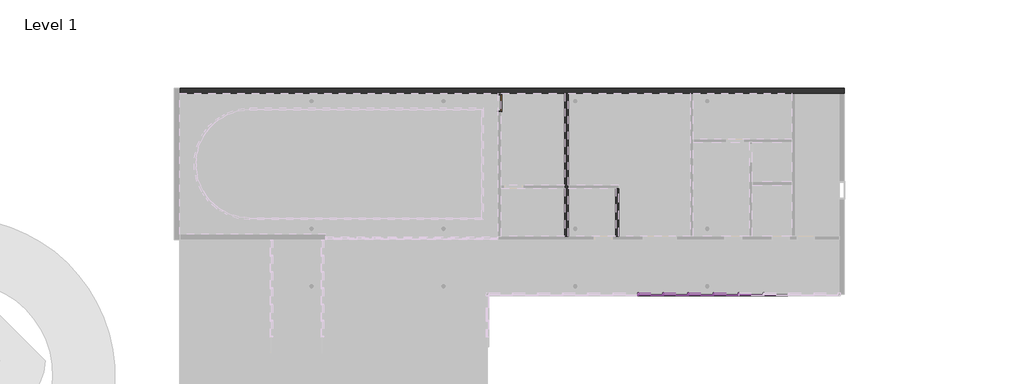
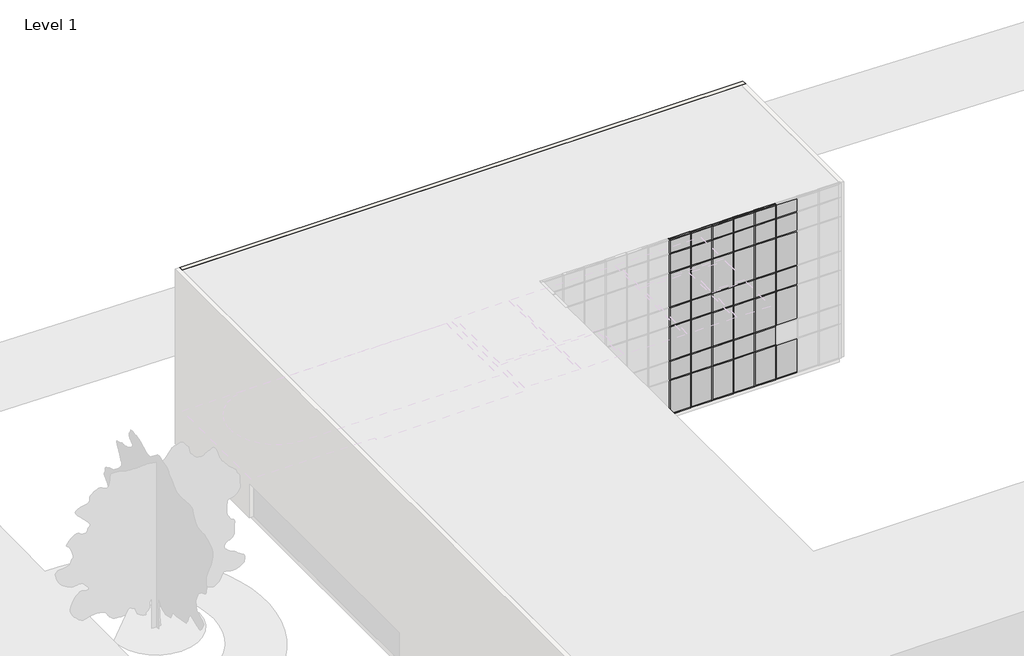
# One storey, part 16 of 18: 81 members, 41 plates, 3 walls, 1 door.
"""IFC4 building model written with IfcOpenShell, lengths in millimetres."""

from ifc_helpers import new_model, si_unit, origin, origin_with_axes, place, context, project, spatial, polyline, outline, extrude, faceted_brep, transform, mapped, element, save
from components import door_0915mm_x_2134mm_2aa27b83, rectangular_mullion_50mm_x_150mm_5a36e067, rectangular_mullion_50mm_x_150mm_73e7bd4c, rectangular_mullion_50mm_x_150mm_bbc1c4ea, rectangular_mullion_50mm_x_150mm_36202a7c, rectangular_mullion_50mm_x_150mm_84717ec5, system_panel_glazed_6032f2be, system_panel_glazed_cd6fe77c, system_panel_solid_87c6c2f1, system_panel_solid_e0f9033a

model = new_model("IFC4")

# Units and contexts
model_context = context("Model", 3, world=origin())
ifc_project = project(units=[si_unit("LENGTHUNIT", "METRE", prefix="MILLI")], contexts=[model_context])

# Site, building, storey
site = spatial("IfcSite", under=ifc_project)
building = spatial("IfcBuilding", under=site)
storey = spatial("IfcBuildingStorey", under=building, Name="Level 1", Elevation=0.0)

# Door
placement = place(None, origin())
door_0915mm_x_2134mm_shape = door_0915mm_x_2134mm_2aa27b83(model_context)
element("IfcDoor", 1, ObjectType="m-doors-hm-f1-a : 0915mm x 2134mm", at=placement, inside=storey, context=model_context, shape_type="MappedRepresentation", body=[
    mapped(door_0915mm_x_2134mm_shape, transform((8314.5010724, 30269.5799804, 0.0), x_axis=(0.0, -1.0, 0.0), y_axis=(1.0, 0.0, 0.0), z_axis=(0.0, 0.0, 1.0))),
])

# Members
rectangular_mullion_50mm_x_150mm_shape = rectangular_mullion_50mm_x_150mm_5a36e067(model_context)
element("IfcMember", 2, ObjectType="Rectangular Mullion : 50mm x 150mm", at=placement, inside=storey, context=model_context, shape_type="MappedRepresentation", body=[
    mapped(rectangular_mullion_50mm_x_150mm_shape, transform((17404.700491, 19414.8392059, 12400.0), x_axis=(0.0, 0.0, 1.0), y_axis=(0.0, -1.0, 0.0), z_axis=(1.0, 0.0, 0.0))),
])
element("IfcMember", 3, ObjectType="Rectangular Mullion : 50mm x 150mm", at=placement, inside=storey, context=model_context, shape_type="MappedRepresentation", body=[
    mapped(rectangular_mullion_50mm_x_150mm_shape, transform((18830.7289793, 19414.8392059, 12400.0), x_axis=(0.0, 0.0, 1.0), y_axis=(0.0, -1.0, 0.0), z_axis=(1.0, 0.0, 0.0))),
])
element("IfcMember", 4, ObjectType="Rectangular Mullion : 50mm x 150mm", at=placement, inside=storey, context=model_context, shape_type="MappedRepresentation", body=[
    mapped(rectangular_mullion_50mm_x_150mm_shape, transform((20256.7574677, 19414.8392059, 12400.0), x_axis=(0.0, 0.0, 1.0), y_axis=(0.0, -1.0, 0.0), z_axis=(1.0, 0.0, 0.0))),
])
element("IfcMember", 5, ObjectType="Rectangular Mullion : 50mm x 150mm", at=placement, inside=storey, context=model_context, shape_type="MappedRepresentation", body=[
    mapped(rectangular_mullion_50mm_x_150mm_shape, transform((21682.785956, 19414.8392059, 12400.0), x_axis=(0.0, 0.0, 1.0), y_axis=(0.0, -1.0, 0.0), z_axis=(1.0, 0.0, 0.0))),
])
element("IfcMember", 6, ObjectType="Rectangular Mullion : 50mm x 150mm", at=placement, inside=storey, context=model_context, shape_type="MappedRepresentation", body=[
    mapped(rectangular_mullion_50mm_x_150mm_shape, transform((23108.8144443, 19414.8392059, 12400.0), x_axis=(0.0, 0.0, 1.0), y_axis=(0.0, -1.0, 0.0), z_axis=(1.0, 0.0, 0.0))),
])
element("IfcMember", 7, ObjectType="Rectangular Mullion : 50mm x 150mm", at=placement, inside=storey, context=model_context, shape_type="MappedRepresentation", body=[
    mapped(rectangular_mullion_50mm_x_150mm_shape, transform((16028.6720027, 19414.8392059, 0.0), x_axis=(0.0, 0.0, -1.0), y_axis=(0.0, -1.0, 0.0), z_axis=(-1.0, 0.0, 0.0))),
])
element("IfcMember", 8, ObjectType="Rectangular Mullion : 50mm x 150mm", at=placement, inside=storey, context=model_context, shape_type="MappedRepresentation", body=[
    mapped(rectangular_mullion_50mm_x_150mm_shape, transform((17454.700491, 19414.8392059, 0.0), x_axis=(0.0, 0.0, -1.0), y_axis=(0.0, -1.0, 0.0), z_axis=(-1.0, 0.0, 0.0))),
])
element("IfcMember", 9, ObjectType="Rectangular Mullion : 50mm x 150mm", at=placement, inside=storey, context=model_context, shape_type="MappedRepresentation", body=[
    mapped(rectangular_mullion_50mm_x_150mm_shape, transform((18880.7289793, 19414.8392059, 0.0), x_axis=(0.0, 0.0, -1.0), y_axis=(0.0, -1.0, 0.0), z_axis=(-1.0, 0.0, 0.0))),
])
element("IfcMember", 10, ObjectType="Rectangular Mullion : 50mm x 150mm", at=placement, inside=storey, context=model_context, shape_type="MappedRepresentation", body=[
    mapped(rectangular_mullion_50mm_x_150mm_shape, transform((20306.7574677, 19414.8392059, 0.0), x_axis=(0.0, 0.0, -1.0), y_axis=(0.0, -1.0, 0.0), z_axis=(-1.0, 0.0, 0.0))),
])
element("IfcMember", 11, ObjectType="Rectangular Mullion : 50mm x 150mm", at=placement, inside=storey, context=model_context, shape_type="MappedRepresentation", body=[
    mapped(rectangular_mullion_50mm_x_150mm_shape, transform((21732.785956, 19414.8392059, 0.0), x_axis=(0.0, 0.0, -1.0), y_axis=(0.0, -1.0, 0.0), z_axis=(-1.0, 0.0, 0.0))),
])
element("IfcMember", 12, ObjectType="Rectangular Mullion : 50mm x 150mm", at=placement, inside=storey, context=model_context, shape_type="MappedRepresentation", body=[
    mapped(rectangular_mullion_50mm_x_150mm_shape, transform((23158.8144443, 19414.8392059, 0.0), x_axis=(0.0, 0.0, -1.0), y_axis=(0.0, -1.0, 0.0), z_axis=(-1.0, 0.0, 0.0))),
])
rectangular_mullion_50mm_x_150mm_2_shape = rectangular_mullion_50mm_x_150mm_73e7bd4c(model_context)
element("IfcMember", 13, ObjectType="Rectangular Mullion : 50mm x 150mm", at=placement, inside=storey, context=model_context, shape_type="MappedRepresentation", body=[
    mapped(rectangular_mullion_50mm_x_150mm_2_shape, transform((17404.700491, 19414.8392059, 3800.0), x_axis=(0.0, 0.0, 1.0), y_axis=(0.0, -1.0, 0.0), z_axis=(1.0, 0.0, 0.0))),
])
element("IfcMember", 14, ObjectType="Rectangular Mullion : 50mm x 150mm", at=placement, inside=storey, context=model_context, shape_type="MappedRepresentation", body=[
    mapped(rectangular_mullion_50mm_x_150mm_2_shape, transform((18830.7289793, 19414.8392059, 3800.0), x_axis=(0.0, 0.0, 1.0), y_axis=(0.0, -1.0, 0.0), z_axis=(1.0, 0.0, 0.0))),
])
element("IfcMember", 15, ObjectType="Rectangular Mullion : 50mm x 150mm", at=placement, inside=storey, context=model_context, shape_type="MappedRepresentation", body=[
    mapped(rectangular_mullion_50mm_x_150mm_2_shape, transform((20256.7574677, 19414.8392059, 3800.0), x_axis=(0.0, 0.0, 1.0), y_axis=(0.0, -1.0, 0.0), z_axis=(1.0, 0.0, 0.0))),
])
element("IfcMember", 16, ObjectType="Rectangular Mullion : 50mm x 150mm", at=placement, inside=storey, context=model_context, shape_type="MappedRepresentation", body=[
    mapped(rectangular_mullion_50mm_x_150mm_2_shape, transform((21682.785956, 19414.8392059, 3800.0), x_axis=(0.0, 0.0, 1.0), y_axis=(0.0, -1.0, 0.0), z_axis=(1.0, 0.0, 0.0))),
])
element("IfcMember", 17, ObjectType="Rectangular Mullion : 50mm x 150mm", at=placement, inside=storey, context=model_context, shape_type="MappedRepresentation", body=[
    mapped(rectangular_mullion_50mm_x_150mm_2_shape, transform((23108.8144443, 19414.8392059, 3800.0), x_axis=(0.0, 0.0, 1.0), y_axis=(0.0, -1.0, 0.0), z_axis=(1.0, 0.0, 0.0))),
])
element("IfcMember", 18, ObjectType="Rectangular Mullion : 50mm x 150mm", at=placement, inside=storey, context=model_context, shape_type="MappedRepresentation", body=[
    mapped(rectangular_mullion_50mm_x_150mm_2_shape, transform((17404.700491, 19414.8392059, 7600.0), x_axis=(0.0, 0.0, 1.0), y_axis=(0.0, -1.0, 0.0), z_axis=(1.0, 0.0, 0.0))),
])
element("IfcMember", 19, ObjectType="Rectangular Mullion : 50mm x 150mm", at=placement, inside=storey, context=model_context, shape_type="MappedRepresentation", body=[
    mapped(rectangular_mullion_50mm_x_150mm_2_shape, transform((18830.7289793, 19414.8392059, 7600.0), x_axis=(0.0, 0.0, 1.0), y_axis=(0.0, -1.0, 0.0), z_axis=(1.0, 0.0, 0.0))),
])
element("IfcMember", 20, ObjectType="Rectangular Mullion : 50mm x 150mm", at=placement, inside=storey, context=model_context, shape_type="MappedRepresentation", body=[
    mapped(rectangular_mullion_50mm_x_150mm_2_shape, transform((20256.7574677, 19414.8392059, 7600.0), x_axis=(0.0, 0.0, 1.0), y_axis=(0.0, -1.0, 0.0), z_axis=(1.0, 0.0, 0.0))),
])
element("IfcMember", 21, ObjectType="Rectangular Mullion : 50mm x 150mm", at=placement, inside=storey, context=model_context, shape_type="MappedRepresentation", body=[
    mapped(rectangular_mullion_50mm_x_150mm_2_shape, transform((21682.785956, 19414.8392059, 7600.0), x_axis=(0.0, 0.0, 1.0), y_axis=(0.0, -1.0, 0.0), z_axis=(1.0, 0.0, 0.0))),
])
element("IfcMember", 22, ObjectType="Rectangular Mullion : 50mm x 150mm", at=placement, inside=storey, context=model_context, shape_type="MappedRepresentation", body=[
    mapped(rectangular_mullion_50mm_x_150mm_2_shape, transform((23108.8144443, 19414.8392059, 7600.0), x_axis=(0.0, 0.0, 1.0), y_axis=(0.0, -1.0, 0.0), z_axis=(1.0, 0.0, 0.0))),
])
element("IfcMember", 23, ObjectType="Rectangular Mullion : 50mm x 150mm", at=placement, inside=storey, context=model_context, shape_type="MappedRepresentation", body=[
    mapped(rectangular_mullion_50mm_x_150mm_2_shape, transform((17404.700491, 19414.8392059, 11400.0), x_axis=(0.0, 0.0, 1.0), y_axis=(0.0, -1.0, 0.0), z_axis=(1.0, 0.0, 0.0))),
])
element("IfcMember", 24, ObjectType="Rectangular Mullion : 50mm x 150mm", at=placement, inside=storey, context=model_context, shape_type="MappedRepresentation", body=[
    mapped(rectangular_mullion_50mm_x_150mm_2_shape, transform((18830.7289793, 19414.8392059, 11400.0), x_axis=(0.0, 0.0, 1.0), y_axis=(0.0, -1.0, 0.0), z_axis=(1.0, 0.0, 0.0))),
])
element("IfcMember", 25, ObjectType="Rectangular Mullion : 50mm x 150mm", at=placement, inside=storey, context=model_context, shape_type="MappedRepresentation", body=[
    mapped(rectangular_mullion_50mm_x_150mm_2_shape, transform((20256.7574677, 19414.8392059, 11400.0), x_axis=(0.0, 0.0, 1.0), y_axis=(0.0, -1.0, 0.0), z_axis=(1.0, 0.0, 0.0))),
])
element("IfcMember", 26, ObjectType="Rectangular Mullion : 50mm x 150mm", at=placement, inside=storey, context=model_context, shape_type="MappedRepresentation", body=[
    mapped(rectangular_mullion_50mm_x_150mm_2_shape, transform((21682.785956, 19414.8392059, 11400.0), x_axis=(0.0, 0.0, 1.0), y_axis=(0.0, -1.0, 0.0), z_axis=(1.0, 0.0, 0.0))),
])
element("IfcMember", 27, ObjectType="Rectangular Mullion : 50mm x 150mm", at=placement, inside=storey, context=model_context, shape_type="MappedRepresentation", body=[
    mapped(rectangular_mullion_50mm_x_150mm_2_shape, transform((23108.8144443, 19414.8392059, 11400.0), x_axis=(0.0, 0.0, 1.0), y_axis=(0.0, -1.0, 0.0), z_axis=(1.0, 0.0, 0.0))),
])
element("IfcMember", 28, ObjectType="Rectangular Mullion : 50mm x 150mm", at=placement, inside=storey, context=model_context, shape_type="MappedRepresentation", body=[
    mapped(rectangular_mullion_50mm_x_150mm_2_shape, transform((17404.700491, 19414.8392059, 10040.0), x_axis=(0.0, 0.0, 1.0), y_axis=(0.0, -1.0, 0.0), z_axis=(1.0, 0.0, 0.0))),
])
element("IfcMember", 29, ObjectType="Rectangular Mullion : 50mm x 150mm", at=placement, inside=storey, context=model_context, shape_type="MappedRepresentation", body=[
    mapped(rectangular_mullion_50mm_x_150mm_2_shape, transform((18830.7289793, 19414.8392059, 10040.0), x_axis=(0.0, 0.0, 1.0), y_axis=(0.0, -1.0, 0.0), z_axis=(1.0, 0.0, 0.0))),
])
element("IfcMember", 30, ObjectType="Rectangular Mullion : 50mm x 150mm", at=placement, inside=storey, context=model_context, shape_type="MappedRepresentation", body=[
    mapped(rectangular_mullion_50mm_x_150mm_2_shape, transform((20256.7574677, 19414.8392059, 10040.0), x_axis=(0.0, 0.0, 1.0), y_axis=(0.0, -1.0, 0.0), z_axis=(1.0, 0.0, 0.0))),
])
element("IfcMember", 31, ObjectType="Rectangular Mullion : 50mm x 150mm", at=placement, inside=storey, context=model_context, shape_type="MappedRepresentation", body=[
    mapped(rectangular_mullion_50mm_x_150mm_2_shape, transform((21682.785956, 19414.8392059, 10040.0), x_axis=(0.0, 0.0, 1.0), y_axis=(0.0, -1.0, 0.0), z_axis=(1.0, 0.0, 0.0))),
])
element("IfcMember", 32, ObjectType="Rectangular Mullion : 50mm x 150mm", at=placement, inside=storey, context=model_context, shape_type="MappedRepresentation", body=[
    mapped(rectangular_mullion_50mm_x_150mm_2_shape, transform((23108.8144443, 19414.8392059, 10040.0), x_axis=(0.0, 0.0, 1.0), y_axis=(0.0, -1.0, 0.0), z_axis=(1.0, 0.0, 0.0))),
])
element("IfcMember", 33, ObjectType="Rectangular Mullion : 50mm x 150mm", at=placement, inside=storey, context=model_context, shape_type="MappedRepresentation", body=[
    mapped(rectangular_mullion_50mm_x_150mm_2_shape, transform((17404.700491, 19414.8392059, 6240.0), x_axis=(0.0, 0.0, 1.0), y_axis=(0.0, -1.0, 0.0), z_axis=(1.0, 0.0, 0.0))),
])
element("IfcMember", 34, ObjectType="Rectangular Mullion : 50mm x 150mm", at=placement, inside=storey, context=model_context, shape_type="MappedRepresentation", body=[
    mapped(rectangular_mullion_50mm_x_150mm_2_shape, transform((18830.7289793, 19414.8392059, 6240.0), x_axis=(0.0, 0.0, 1.0), y_axis=(0.0, -1.0, 0.0), z_axis=(1.0, 0.0, 0.0))),
])
element("IfcMember", 35, ObjectType="Rectangular Mullion : 50mm x 150mm", at=placement, inside=storey, context=model_context, shape_type="MappedRepresentation", body=[
    mapped(rectangular_mullion_50mm_x_150mm_2_shape, transform((20256.7574677, 19414.8392059, 6240.0), x_axis=(0.0, 0.0, 1.0), y_axis=(0.0, -1.0, 0.0), z_axis=(1.0, 0.0, 0.0))),
])
element("IfcMember", 36, ObjectType="Rectangular Mullion : 50mm x 150mm", at=placement, inside=storey, context=model_context, shape_type="MappedRepresentation", body=[
    mapped(rectangular_mullion_50mm_x_150mm_2_shape, transform((21682.785956, 19414.8392059, 6240.0), x_axis=(0.0, 0.0, 1.0), y_axis=(0.0, -1.0, 0.0), z_axis=(1.0, 0.0, 0.0))),
])
element("IfcMember", 37, ObjectType="Rectangular Mullion : 50mm x 150mm", at=placement, inside=storey, context=model_context, shape_type="MappedRepresentation", body=[
    mapped(rectangular_mullion_50mm_x_150mm_2_shape, transform((23108.8144443, 19414.8392059, 6240.0), x_axis=(0.0, 0.0, 1.0), y_axis=(0.0, -1.0, 0.0), z_axis=(1.0, 0.0, 0.0))),
])
element("IfcMember", 38, ObjectType="Rectangular Mullion : 50mm x 150mm", at=placement, inside=storey, context=model_context, shape_type="MappedRepresentation", body=[
    mapped(rectangular_mullion_50mm_x_150mm_2_shape, transform((17404.700491, 19414.8392059, 2440.0), x_axis=(0.0, 0.0, 1.0), y_axis=(0.0, -1.0, 0.0), z_axis=(1.0, 0.0, 0.0))),
])
element("IfcMember", 39, ObjectType="Rectangular Mullion : 50mm x 150mm", at=placement, inside=storey, context=model_context, shape_type="MappedRepresentation", body=[
    mapped(rectangular_mullion_50mm_x_150mm_2_shape, transform((18830.7289793, 19414.8392059, 2440.0), x_axis=(0.0, 0.0, 1.0), y_axis=(0.0, -1.0, 0.0), z_axis=(1.0, 0.0, 0.0))),
])
element("IfcMember", 40, ObjectType="Rectangular Mullion : 50mm x 150mm", at=placement, inside=storey, context=model_context, shape_type="MappedRepresentation", body=[
    mapped(rectangular_mullion_50mm_x_150mm_2_shape, transform((20256.7574677, 19414.8392059, 2440.0), x_axis=(0.0, 0.0, 1.0), y_axis=(0.0, -1.0, 0.0), z_axis=(1.0, 0.0, 0.0))),
])
element("IfcMember", 41, ObjectType="Rectangular Mullion : 50mm x 150mm", at=placement, inside=storey, context=model_context, shape_type="MappedRepresentation", body=[
    mapped(rectangular_mullion_50mm_x_150mm_2_shape, transform((21682.785956, 19414.8392059, 2440.0), x_axis=(0.0, 0.0, 1.0), y_axis=(0.0, -1.0, 0.0), z_axis=(1.0, 0.0, 0.0))),
])
rectangular_mullion_50mm_x_150mm_3_shape = rectangular_mullion_50mm_x_150mm_bbc1c4ea(model_context)
element("IfcMember", 42, ObjectType="Rectangular Mullion : 50mm x 150mm", at=placement, inside=storey, context=model_context, shape_type="MappedRepresentation", body=[
    mapped(rectangular_mullion_50mm_x_150mm_3_shape, transform((16003.6720027, 19414.8392059, 11400.0), x_axis=(1.0, 0.0, 0.0), y_axis=(0.0, -1.0, 0.0), z_axis=(0.0, 0.0, -1.0))),
])
element("IfcMember", 43, ObjectType="Rectangular Mullion : 50mm x 150mm", at=placement, inside=storey, context=model_context, shape_type="MappedRepresentation", body=[
    mapped(rectangular_mullion_50mm_x_150mm_3_shape, transform((17429.700491, 19414.8392059, 11400.0), x_axis=(1.0, 0.0, 0.0), y_axis=(0.0, -1.0, 0.0), z_axis=(0.0, 0.0, -1.0))),
])
element("IfcMember", 44, ObjectType="Rectangular Mullion : 50mm x 150mm", at=placement, inside=storey, context=model_context, shape_type="MappedRepresentation", body=[
    mapped(rectangular_mullion_50mm_x_150mm_3_shape, transform((18855.7289793, 19414.8392059, 11400.0), x_axis=(1.0, 0.0, 0.0), y_axis=(0.0, -1.0, 0.0), z_axis=(0.0, 0.0, -1.0))),
])
element("IfcMember", 45, ObjectType="Rectangular Mullion : 50mm x 150mm", at=placement, inside=storey, context=model_context, shape_type="MappedRepresentation", body=[
    mapped(rectangular_mullion_50mm_x_150mm_3_shape, transform((20281.7574677, 19414.8392059, 11400.0), x_axis=(1.0, 0.0, 0.0), y_axis=(0.0, -1.0, 0.0), z_axis=(0.0, 0.0, -1.0))),
])
element("IfcMember", 46, ObjectType="Rectangular Mullion : 50mm x 150mm", at=placement, inside=storey, context=model_context, shape_type="MappedRepresentation", body=[
    mapped(rectangular_mullion_50mm_x_150mm_3_shape, transform((21707.785956, 19414.8392059, 11400.0), x_axis=(1.0, 0.0, 0.0), y_axis=(0.0, -1.0, 0.0), z_axis=(0.0, 0.0, -1.0))),
])
element("IfcMember", 47, ObjectType="Rectangular Mullion : 50mm x 150mm", at=placement, inside=storey, context=model_context, shape_type="MappedRepresentation", body=[
    mapped(rectangular_mullion_50mm_x_150mm_3_shape, transform((23133.8144443, 19414.8392059, 11400.0), x_axis=(1.0, 0.0, 0.0), y_axis=(0.0, -1.0, 0.0), z_axis=(0.0, 0.0, -1.0))),
])
rectangular_mullion_50mm_x_150mm_4_shape = rectangular_mullion_50mm_x_150mm_36202a7c(model_context)
element("IfcMember", 48, ObjectType="Rectangular Mullion : 50mm x 150mm", at=placement, inside=storey, context=model_context, shape_type="MappedRepresentation", body=[
    mapped(rectangular_mullion_50mm_x_150mm_4_shape, transform((16003.6720027, 19414.8392059, 0.0), x_axis=(1.0, 0.0, 0.0), y_axis=(0.0, -1.0, 0.0), z_axis=(0.0, 0.0, -1.0))),
])
element("IfcMember", 49, ObjectType="Rectangular Mullion : 50mm x 150mm", at=placement, inside=storey, context=model_context, shape_type="MappedRepresentation", body=[
    mapped(rectangular_mullion_50mm_x_150mm_4_shape, transform((17429.700491, 19414.8392059, 0.0), x_axis=(1.0, 0.0, 0.0), y_axis=(0.0, -1.0, 0.0), z_axis=(0.0, 0.0, -1.0))),
])
element("IfcMember", 50, ObjectType="Rectangular Mullion : 50mm x 150mm", at=placement, inside=storey, context=model_context, shape_type="MappedRepresentation", body=[
    mapped(rectangular_mullion_50mm_x_150mm_4_shape, transform((18855.7289793, 19414.8392059, 0.0), x_axis=(1.0, 0.0, 0.0), y_axis=(0.0, -1.0, 0.0), z_axis=(0.0, 0.0, -1.0))),
])
element("IfcMember", 51, ObjectType="Rectangular Mullion : 50mm x 150mm", at=placement, inside=storey, context=model_context, shape_type="MappedRepresentation", body=[
    mapped(rectangular_mullion_50mm_x_150mm_4_shape, transform((20281.7574677, 19414.8392059, 0.0), x_axis=(1.0, 0.0, 0.0), y_axis=(0.0, -1.0, 0.0), z_axis=(0.0, 0.0, -1.0))),
])
element("IfcMember", 52, ObjectType="Rectangular Mullion : 50mm x 150mm", at=placement, inside=storey, context=model_context, shape_type="MappedRepresentation", body=[
    mapped(rectangular_mullion_50mm_x_150mm_4_shape, transform((21707.785956, 19414.8392059, 0.0), x_axis=(1.0, 0.0, 0.0), y_axis=(0.0, -1.0, 0.0), z_axis=(0.0, 0.0, -1.0))),
])
element("IfcMember", 53, ObjectType="Rectangular Mullion : 50mm x 150mm", at=placement, inside=storey, context=model_context, shape_type="MappedRepresentation", body=[
    mapped(rectangular_mullion_50mm_x_150mm_4_shape, transform((23133.8144443, 19414.8392059, 0.0), x_axis=(1.0, 0.0, 0.0), y_axis=(0.0, -1.0, 0.0), z_axis=(0.0, 0.0, -1.0))),
])
rectangular_mullion_50mm_x_150mm_5_shape = rectangular_mullion_50mm_x_150mm_84717ec5(model_context)
element("IfcMember", 54, ObjectType="Rectangular Mullion : 50mm x 150mm", at=placement, inside=storey, context=model_context, shape_type="MappedRepresentation", body=[
    mapped(rectangular_mullion_50mm_x_150mm_5_shape, transform((16003.6720027, 19414.8392059, 10040.0), x_axis=(1.0, 0.0, 0.0), y_axis=(0.0, -1.0, 0.0), z_axis=(0.0, 0.0, -1.0))),
])
element("IfcMember", 55, ObjectType="Rectangular Mullion : 50mm x 150mm", at=placement, inside=storey, context=model_context, shape_type="MappedRepresentation", body=[
    mapped(rectangular_mullion_50mm_x_150mm_5_shape, transform((17429.700491, 19414.8392059, 10040.0), x_axis=(1.0, 0.0, 0.0), y_axis=(0.0, -1.0, 0.0), z_axis=(0.0, 0.0, -1.0))),
])
element("IfcMember", 56, ObjectType="Rectangular Mullion : 50mm x 150mm", at=placement, inside=storey, context=model_context, shape_type="MappedRepresentation", body=[
    mapped(rectangular_mullion_50mm_x_150mm_5_shape, transform((18855.7289793, 19414.8392059, 10040.0), x_axis=(1.0, 0.0, 0.0), y_axis=(0.0, -1.0, 0.0), z_axis=(0.0, 0.0, -1.0))),
])
element("IfcMember", 57, ObjectType="Rectangular Mullion : 50mm x 150mm", at=placement, inside=storey, context=model_context, shape_type="MappedRepresentation", body=[
    mapped(rectangular_mullion_50mm_x_150mm_5_shape, transform((20281.7574677, 19414.8392059, 10040.0), x_axis=(1.0, 0.0, 0.0), y_axis=(0.0, -1.0, 0.0), z_axis=(0.0, 0.0, -1.0))),
])
element("IfcMember", 58, ObjectType="Rectangular Mullion : 50mm x 150mm", at=placement, inside=storey, context=model_context, shape_type="MappedRepresentation", body=[
    mapped(rectangular_mullion_50mm_x_150mm_5_shape, transform((21707.785956, 19414.8392059, 10040.0), x_axis=(1.0, 0.0, 0.0), y_axis=(0.0, -1.0, 0.0), z_axis=(0.0, 0.0, -1.0))),
])
element("IfcMember", 59, ObjectType="Rectangular Mullion : 50mm x 150mm", at=placement, inside=storey, context=model_context, shape_type="MappedRepresentation", body=[
    mapped(rectangular_mullion_50mm_x_150mm_5_shape, transform((23133.8144443, 19414.8392059, 10040.0), x_axis=(1.0, 0.0, 0.0), y_axis=(0.0, -1.0, 0.0), z_axis=(0.0, 0.0, -1.0))),
])
element("IfcMember", 60, ObjectType="Rectangular Mullion : 50mm x 150mm", at=placement, inside=storey, context=model_context, shape_type="MappedRepresentation", body=[
    mapped(rectangular_mullion_50mm_x_150mm_5_shape, transform((16003.6720027, 19414.8392059, 6240.0), x_axis=(1.0, 0.0, 0.0), y_axis=(0.0, -1.0, 0.0), z_axis=(0.0, 0.0, -1.0))),
])
element("IfcMember", 61, ObjectType="Rectangular Mullion : 50mm x 150mm", at=placement, inside=storey, context=model_context, shape_type="MappedRepresentation", body=[
    mapped(rectangular_mullion_50mm_x_150mm_5_shape, transform((17429.700491, 19414.8392059, 6240.0), x_axis=(1.0, 0.0, 0.0), y_axis=(0.0, -1.0, 0.0), z_axis=(0.0, 0.0, -1.0))),
])
element("IfcMember", 62, ObjectType="Rectangular Mullion : 50mm x 150mm", at=placement, inside=storey, context=model_context, shape_type="MappedRepresentation", body=[
    mapped(rectangular_mullion_50mm_x_150mm_5_shape, transform((18855.7289793, 19414.8392059, 6240.0), x_axis=(1.0, 0.0, 0.0), y_axis=(0.0, -1.0, 0.0), z_axis=(0.0, 0.0, -1.0))),
])
element("IfcMember", 63, ObjectType="Rectangular Mullion : 50mm x 150mm", at=placement, inside=storey, context=model_context, shape_type="MappedRepresentation", body=[
    mapped(rectangular_mullion_50mm_x_150mm_5_shape, transform((20281.7574677, 19414.8392059, 6240.0), x_axis=(1.0, 0.0, 0.0), y_axis=(0.0, -1.0, 0.0), z_axis=(0.0, 0.0, -1.0))),
])
element("IfcMember", 64, ObjectType="Rectangular Mullion : 50mm x 150mm", at=placement, inside=storey, context=model_context, shape_type="MappedRepresentation", body=[
    mapped(rectangular_mullion_50mm_x_150mm_5_shape, transform((21707.785956, 19414.8392059, 6240.0), x_axis=(1.0, 0.0, 0.0), y_axis=(0.0, -1.0, 0.0), z_axis=(0.0, 0.0, -1.0))),
])
element("IfcMember", 65, ObjectType="Rectangular Mullion : 50mm x 150mm", at=placement, inside=storey, context=model_context, shape_type="MappedRepresentation", body=[
    mapped(rectangular_mullion_50mm_x_150mm_5_shape, transform((23133.8144443, 19414.8392059, 6240.0), x_axis=(1.0, 0.0, 0.0), y_axis=(0.0, -1.0, 0.0), z_axis=(0.0, 0.0, -1.0))),
])
element("IfcMember", 66, ObjectType="Rectangular Mullion : 50mm x 150mm", at=placement, inside=storey, context=model_context, shape_type="MappedRepresentation", body=[
    mapped(rectangular_mullion_50mm_x_150mm_5_shape, transform((16003.6720027, 19414.8392059, 2440.0), x_axis=(1.0, 0.0, 0.0), y_axis=(0.0, -1.0, 0.0), z_axis=(0.0, 0.0, -1.0))),
])
element("IfcMember", 67, ObjectType="Rectangular Mullion : 50mm x 150mm", at=placement, inside=storey, context=model_context, shape_type="MappedRepresentation", body=[
    mapped(rectangular_mullion_50mm_x_150mm_5_shape, transform((17429.700491, 19414.8392059, 2440.0), x_axis=(1.0, 0.0, 0.0), y_axis=(0.0, -1.0, 0.0), z_axis=(0.0, 0.0, -1.0))),
])
element("IfcMember", 68, ObjectType="Rectangular Mullion : 50mm x 150mm", at=placement, inside=storey, context=model_context, shape_type="MappedRepresentation", body=[
    mapped(rectangular_mullion_50mm_x_150mm_5_shape, transform((18855.7289793, 19414.8392059, 2440.0), x_axis=(1.0, 0.0, 0.0), y_axis=(0.0, -1.0, 0.0), z_axis=(0.0, 0.0, -1.0))),
])
element("IfcMember", 69, ObjectType="Rectangular Mullion : 50mm x 150mm", at=placement, inside=storey, context=model_context, shape_type="MappedRepresentation", body=[
    mapped(rectangular_mullion_50mm_x_150mm_5_shape, transform((20281.7574677, 19414.8392059, 2440.0), x_axis=(1.0, 0.0, 0.0), y_axis=(0.0, -1.0, 0.0), z_axis=(0.0, 0.0, -1.0))),
])
element("IfcMember", 70, ObjectType="Rectangular Mullion : 50mm x 150mm", at=placement, inside=storey, context=model_context, shape_type="MappedRepresentation", body=[
    mapped(rectangular_mullion_50mm_x_150mm_5_shape, transform((21707.785956, 19414.8392059, 2440.0), x_axis=(1.0, 0.0, 0.0), y_axis=(0.0, -1.0, 0.0), z_axis=(0.0, 0.0, -1.0))),
])
element("IfcMember", 71, ObjectType="Rectangular Mullion : 50mm x 150mm", at=placement, inside=storey, context=model_context, shape_type="MappedRepresentation", body=[
    mapped(rectangular_mullion_50mm_x_150mm_4_shape, transform((16003.6720027, 19414.8392059, 3800.0), x_axis=(1.0, 0.0, 0.0), y_axis=(0.0, -1.0, 0.0), z_axis=(0.0, 0.0, -1.0))),
])
element("IfcMember", 72, ObjectType="Rectangular Mullion : 50mm x 150mm", at=placement, inside=storey, context=model_context, shape_type="MappedRepresentation", body=[
    mapped(rectangular_mullion_50mm_x_150mm_4_shape, transform((17429.700491, 19414.8392059, 3800.0), x_axis=(1.0, 0.0, 0.0), y_axis=(0.0, -1.0, 0.0), z_axis=(0.0, 0.0, -1.0))),
])
element("IfcMember", 73, ObjectType="Rectangular Mullion : 50mm x 150mm", at=placement, inside=storey, context=model_context, shape_type="MappedRepresentation", body=[
    mapped(rectangular_mullion_50mm_x_150mm_4_shape, transform((18855.7289793, 19414.8392059, 3800.0), x_axis=(1.0, 0.0, 0.0), y_axis=(0.0, -1.0, 0.0), z_axis=(0.0, 0.0, -1.0))),
])
element("IfcMember", 74, ObjectType="Rectangular Mullion : 50mm x 150mm", at=placement, inside=storey, context=model_context, shape_type="MappedRepresentation", body=[
    mapped(rectangular_mullion_50mm_x_150mm_4_shape, transform((20281.7574677, 19414.8392059, 3800.0), x_axis=(1.0, 0.0, 0.0), y_axis=(0.0, -1.0, 0.0), z_axis=(0.0, 0.0, -1.0))),
])
element("IfcMember", 75, ObjectType="Rectangular Mullion : 50mm x 150mm", at=placement, inside=storey, context=model_context, shape_type="MappedRepresentation", body=[
    mapped(rectangular_mullion_50mm_x_150mm_4_shape, transform((21707.785956, 19414.8392059, 3800.0), x_axis=(1.0, 0.0, 0.0), y_axis=(0.0, -1.0, 0.0), z_axis=(0.0, 0.0, -1.0))),
])
element("IfcMember", 76, ObjectType="Rectangular Mullion : 50mm x 150mm", at=placement, inside=storey, context=model_context, shape_type="MappedRepresentation", body=[
    mapped(rectangular_mullion_50mm_x_150mm_4_shape, transform((23133.8144443, 19414.8392059, 3800.0), x_axis=(1.0, 0.0, 0.0), y_axis=(0.0, -1.0, 0.0), z_axis=(0.0, 0.0, -1.0))),
])
element("IfcMember", 77, ObjectType="Rectangular Mullion : 50mm x 150mm", at=placement, inside=storey, context=model_context, shape_type="MappedRepresentation", body=[
    mapped(rectangular_mullion_50mm_x_150mm_4_shape, transform((16003.6720027, 19414.8392059, 7600.0), x_axis=(1.0, 0.0, 0.0), y_axis=(0.0, -1.0, 0.0), z_axis=(0.0, 0.0, -1.0))),
])
element("IfcMember", 78, ObjectType="Rectangular Mullion : 50mm x 150mm", at=placement, inside=storey, context=model_context, shape_type="MappedRepresentation", body=[
    mapped(rectangular_mullion_50mm_x_150mm_4_shape, transform((17429.700491, 19414.8392059, 7600.0), x_axis=(1.0, 0.0, 0.0), y_axis=(0.0, -1.0, 0.0), z_axis=(0.0, 0.0, -1.0))),
])
element("IfcMember", 79, ObjectType="Rectangular Mullion : 50mm x 150mm", at=placement, inside=storey, context=model_context, shape_type="MappedRepresentation", body=[
    mapped(rectangular_mullion_50mm_x_150mm_4_shape, transform((18855.7289793, 19414.8392059, 7600.0), x_axis=(1.0, 0.0, 0.0), y_axis=(0.0, -1.0, 0.0), z_axis=(0.0, 0.0, -1.0))),
])
element("IfcMember", 80, ObjectType="Rectangular Mullion : 50mm x 150mm", at=placement, inside=storey, context=model_context, shape_type="MappedRepresentation", body=[
    mapped(rectangular_mullion_50mm_x_150mm_4_shape, transform((20281.7574677, 19414.8392059, 7600.0), x_axis=(1.0, 0.0, 0.0), y_axis=(0.0, -1.0, 0.0), z_axis=(0.0, 0.0, -1.0))),
])
element("IfcMember", 81, ObjectType="Rectangular Mullion : 50mm x 150mm", at=placement, inside=storey, context=model_context, shape_type="MappedRepresentation", body=[
    mapped(rectangular_mullion_50mm_x_150mm_4_shape, transform((21707.785956, 19414.8392059, 7600.0), x_axis=(1.0, 0.0, 0.0), y_axis=(0.0, -1.0, 0.0), z_axis=(0.0, 0.0, -1.0))),
])
element("IfcMember", 82, ObjectType="Rectangular Mullion : 50mm x 150mm", at=placement, inside=storey, context=model_context, shape_type="MappedRepresentation", body=[
    mapped(rectangular_mullion_50mm_x_150mm_4_shape, transform((23133.8144443, 19414.8392059, 7600.0), x_axis=(1.0, 0.0, 0.0), y_axis=(0.0, -1.0, 0.0), z_axis=(0.0, 0.0, -1.0))),
])

# Plates
system_panel_glazed_shape = system_panel_glazed_6032f2be(model_context)
element("IfcPlate", 83, ObjectType="System Panel : Glazed", at=placement, inside=storey, context=model_context, shape_type="MappedRepresentation", body=[
    mapped(system_panel_glazed_shape, transform((16716.6862468, 19414.8392059, 3825.0), x_axis=(1.0, 0.0, 0.0), y_axis=(0.0, 1.0, 0.0), z_axis=(0.0, 0.0, 1.0))),
])
element("IfcPlate", 84, ObjectType="System Panel : Glazed", at=placement, inside=storey, context=model_context, shape_type="MappedRepresentation", body=[
    mapped(system_panel_glazed_shape, transform((18142.7147352, 19414.8392059, 3825.0), x_axis=(1.0, 0.0, 0.0), y_axis=(0.0, 1.0, 0.0), z_axis=(0.0, 0.0, 1.0))),
])
element("IfcPlate", 85, ObjectType="System Panel : Glazed", at=placement, inside=storey, context=model_context, shape_type="MappedRepresentation", body=[
    mapped(system_panel_glazed_shape, transform((19568.7432235, 19414.8392059, 3825.0), x_axis=(1.0, 0.0, 0.0), y_axis=(0.0, 1.0, 0.0), z_axis=(0.0, 0.0, 1.0))),
])
element("IfcPlate", 86, ObjectType="System Panel : Glazed", at=placement, inside=storey, context=model_context, shape_type="MappedRepresentation", body=[
    mapped(system_panel_glazed_shape, transform((20994.7717118, 19414.8392059, 3825.0), x_axis=(1.0, 0.0, 0.0), y_axis=(0.0, 1.0, 0.0), z_axis=(0.0, 0.0, 1.0))),
])
element("IfcPlate", 87, ObjectType="System Panel : Glazed", at=placement, inside=storey, context=model_context, shape_type="MappedRepresentation", body=[
    mapped(system_panel_glazed_shape, transform((22420.8002002, 19414.8392059, 3825.0), x_axis=(1.0, 0.0, 0.0), y_axis=(0.0, 1.0, 0.0), z_axis=(0.0, 0.0, 1.0))),
])
element("IfcPlate", 88, ObjectType="System Panel : Glazed", at=placement, inside=storey, context=model_context, shape_type="MappedRepresentation", body=[
    mapped(system_panel_glazed_shape, transform((23846.8286885, 19414.8392059, 3825.0), x_axis=(1.0, 0.0, 0.0), y_axis=(0.0, 1.0, 0.0), z_axis=(0.0, 0.0, 1.0))),
])
element("IfcPlate", 89, ObjectType="System Panel : Glazed", at=placement, inside=storey, context=model_context, shape_type="MappedRepresentation", body=[
    mapped(system_panel_glazed_shape, transform((16716.6862468, 19414.8392059, 7625.0), x_axis=(1.0, 0.0, 0.0), y_axis=(0.0, 1.0, 0.0), z_axis=(0.0, 0.0, 1.0))),
])
element("IfcPlate", 90, ObjectType="System Panel : Glazed", at=placement, inside=storey, context=model_context, shape_type="MappedRepresentation", body=[
    mapped(system_panel_glazed_shape, transform((18142.7147352, 19414.8392059, 7625.0), x_axis=(1.0, 0.0, 0.0), y_axis=(0.0, 1.0, 0.0), z_axis=(0.0, 0.0, 1.0))),
])
element("IfcPlate", 91, ObjectType="System Panel : Glazed", at=placement, inside=storey, context=model_context, shape_type="MappedRepresentation", body=[
    mapped(system_panel_glazed_shape, transform((19568.7432235, 19414.8392059, 7625.0), x_axis=(1.0, 0.0, 0.0), y_axis=(0.0, 1.0, 0.0), z_axis=(0.0, 0.0, 1.0))),
])
element("IfcPlate", 92, ObjectType="System Panel : Glazed", at=placement, inside=storey, context=model_context, shape_type="MappedRepresentation", body=[
    mapped(system_panel_glazed_shape, transform((20994.7717118, 19414.8392059, 7625.0), x_axis=(1.0, 0.0, 0.0), y_axis=(0.0, 1.0, 0.0), z_axis=(0.0, 0.0, 1.0))),
])
element("IfcPlate", 93, ObjectType="System Panel : Glazed", at=placement, inside=storey, context=model_context, shape_type="MappedRepresentation", body=[
    mapped(system_panel_glazed_shape, transform((22420.8002002, 19414.8392059, 7625.0), x_axis=(1.0, 0.0, 0.0), y_axis=(0.0, 1.0, 0.0), z_axis=(0.0, 0.0, 1.0))),
])
element("IfcPlate", 94, ObjectType="System Panel : Glazed", at=placement, inside=storey, context=model_context, shape_type="MappedRepresentation", body=[
    mapped(system_panel_glazed_shape, transform((23846.8286885, 19414.8392059, 7625.0), x_axis=(1.0, 0.0, 0.0), y_axis=(0.0, 1.0, 0.0), z_axis=(0.0, 0.0, 1.0))),
])
system_panel_glazed_2_shape = system_panel_glazed_cd6fe77c(model_context)
element("IfcPlate", 95, ObjectType="System Panel : Glazed", at=placement, inside=storey, context=model_context, shape_type="MappedRepresentation", body=[
    mapped(system_panel_glazed_2_shape, transform((16716.6862468, 19414.8392059, 50.0), x_axis=(1.0, 0.0, 0.0), y_axis=(0.0, 1.0, 0.0), z_axis=(0.0, 0.0, 1.0))),
])
element("IfcPlate", 96, ObjectType="System Panel : Glazed", at=placement, inside=storey, context=model_context, shape_type="MappedRepresentation", body=[
    mapped(system_panel_glazed_2_shape, transform((18142.7147352, 19414.8392059, 50.0), x_axis=(1.0, 0.0, 0.0), y_axis=(0.0, 1.0, 0.0), z_axis=(0.0, 0.0, 1.0))),
])
element("IfcPlate", 97, ObjectType="System Panel : Glazed", at=placement, inside=storey, context=model_context, shape_type="MappedRepresentation", body=[
    mapped(system_panel_glazed_2_shape, transform((19568.7432235, 19414.8392059, 50.0), x_axis=(1.0, 0.0, 0.0), y_axis=(0.0, 1.0, 0.0), z_axis=(0.0, 0.0, 1.0))),
])
element("IfcPlate", 98, ObjectType="System Panel : Glazed", at=placement, inside=storey, context=model_context, shape_type="MappedRepresentation", body=[
    mapped(system_panel_glazed_2_shape, transform((20994.7717118, 19414.8392059, 50.0), x_axis=(1.0, 0.0, 0.0), y_axis=(0.0, 1.0, 0.0), z_axis=(0.0, 0.0, 1.0))),
])
element("IfcPlate", 99, ObjectType="System Panel : Glazed", at=placement, inside=storey, context=model_context, shape_type="MappedRepresentation", body=[
    mapped(system_panel_glazed_2_shape, transform((22420.8002002, 19414.8392059, 50.0), x_axis=(1.0, 0.0, 0.0), y_axis=(0.0, 1.0, 0.0), z_axis=(0.0, 0.0, 1.0))),
])
element("IfcPlate", 100, ObjectType="System Panel : Glazed", at=placement, inside=storey, context=model_context, shape_type="MappedRepresentation", body=[
    mapped(system_panel_glazed_2_shape, transform((23846.8286885, 19414.8392059, 50.0), x_axis=(1.0, 0.0, 0.0), y_axis=(0.0, 1.0, 0.0), z_axis=(0.0, 0.0, 1.0))),
])
system_panel_solid_shape = system_panel_solid_87c6c2f1(model_context)
element("IfcPlate", 101, ObjectType="System Panel : Solid", at=placement, inside=storey, context=model_context, shape_type="MappedRepresentation", body=[
    mapped(system_panel_solid_shape, transform((16716.6862468, 19414.8392059, 11425.0), x_axis=(1.0, 0.0, 0.0), y_axis=(0.0, 1.0, 0.0), z_axis=(0.0, 0.0, 1.0))),
])
element("IfcPlate", 102, ObjectType="System Panel : Solid", at=placement, inside=storey, context=model_context, shape_type="MappedRepresentation", body=[
    mapped(system_panel_solid_shape, transform((18142.7147352, 19414.8392059, 11425.0), x_axis=(1.0, 0.0, 0.0), y_axis=(0.0, 1.0, 0.0), z_axis=(0.0, 0.0, 1.0))),
])
element("IfcPlate", 103, ObjectType="System Panel : Solid", at=placement, inside=storey, context=model_context, shape_type="MappedRepresentation", body=[
    mapped(system_panel_solid_shape, transform((19568.7432235, 19414.8392059, 11425.0), x_axis=(1.0, 0.0, 0.0), y_axis=(0.0, 1.0, 0.0), z_axis=(0.0, 0.0, 1.0))),
])
element("IfcPlate", 104, ObjectType="System Panel : Solid", at=placement, inside=storey, context=model_context, shape_type="MappedRepresentation", body=[
    mapped(system_panel_solid_shape, transform((20994.7717118, 19414.8392059, 11425.0), x_axis=(1.0, 0.0, 0.0), y_axis=(0.0, 1.0, 0.0), z_axis=(0.0, 0.0, 1.0))),
])
element("IfcPlate", 105, ObjectType="System Panel : Solid", at=placement, inside=storey, context=model_context, shape_type="MappedRepresentation", body=[
    mapped(system_panel_solid_shape, transform((22420.8002002, 19414.8392059, 11425.0), x_axis=(1.0, 0.0, 0.0), y_axis=(0.0, 1.0, 0.0), z_axis=(0.0, 0.0, 1.0))),
])
element("IfcPlate", 106, ObjectType="System Panel : Solid", at=placement, inside=storey, context=model_context, shape_type="MappedRepresentation", body=[
    mapped(system_panel_solid_shape, transform((23846.8286885, 19414.8392059, 11425.0), x_axis=(1.0, 0.0, 0.0), y_axis=(0.0, 1.0, 0.0), z_axis=(0.0, 0.0, 1.0))),
])
system_panel_solid_2_shape = system_panel_solid_e0f9033a(model_context)
element("IfcPlate", 107, ObjectType="System Panel : Solid", at=placement, inside=storey, context=model_context, shape_type="MappedRepresentation", body=[
    mapped(system_panel_solid_2_shape, transform((16716.6862468, 19414.8392059, 10065.0), x_axis=(1.0, 0.0, 0.0), y_axis=(0.0, 1.0, 0.0), z_axis=(0.0, 0.0, 1.0))),
])
element("IfcPlate", 108, ObjectType="System Panel : Solid", at=placement, inside=storey, context=model_context, shape_type="MappedRepresentation", body=[
    mapped(system_panel_solid_2_shape, transform((18142.7147352, 19414.8392059, 10065.0), x_axis=(1.0, 0.0, 0.0), y_axis=(0.0, 1.0, 0.0), z_axis=(0.0, 0.0, 1.0))),
])
element("IfcPlate", 109, ObjectType="System Panel : Solid", at=placement, inside=storey, context=model_context, shape_type="MappedRepresentation", body=[
    mapped(system_panel_solid_2_shape, transform((19568.7432235, 19414.8392059, 10065.0), x_axis=(1.0, 0.0, 0.0), y_axis=(0.0, 1.0, 0.0), z_axis=(0.0, 0.0, 1.0))),
])
element("IfcPlate", 110, ObjectType="System Panel : Solid", at=placement, inside=storey, context=model_context, shape_type="MappedRepresentation", body=[
    mapped(system_panel_solid_2_shape, transform((20994.7717118, 19414.8392059, 10065.0), x_axis=(1.0, 0.0, 0.0), y_axis=(0.0, 1.0, 0.0), z_axis=(0.0, 0.0, 1.0))),
])
element("IfcPlate", 111, ObjectType="System Panel : Solid", at=placement, inside=storey, context=model_context, shape_type="MappedRepresentation", body=[
    mapped(system_panel_solid_2_shape, transform((22420.8002002, 19414.8392059, 10065.0), x_axis=(1.0, 0.0, 0.0), y_axis=(0.0, 1.0, 0.0), z_axis=(0.0, 0.0, 1.0))),
])
element("IfcPlate", 112, ObjectType="System Panel : Solid", at=placement, inside=storey, context=model_context, shape_type="MappedRepresentation", body=[
    mapped(system_panel_solid_2_shape, transform((23846.8286885, 19414.8392059, 10065.0), x_axis=(1.0, 0.0, 0.0), y_axis=(0.0, 1.0, 0.0), z_axis=(0.0, 0.0, 1.0))),
])
element("IfcPlate", 113, ObjectType="System Panel : Solid", at=placement, inside=storey, context=model_context, shape_type="MappedRepresentation", body=[
    mapped(system_panel_solid_2_shape, transform((16716.6862468, 19414.8392059, 6265.0), x_axis=(1.0, 0.0, 0.0), y_axis=(0.0, 1.0, 0.0), z_axis=(0.0, 0.0, 1.0))),
])
element("IfcPlate", 114, ObjectType="System Panel : Solid", at=placement, inside=storey, context=model_context, shape_type="MappedRepresentation", body=[
    mapped(system_panel_solid_2_shape, transform((18142.7147352, 19414.8392059, 6265.0), x_axis=(1.0, 0.0, 0.0), y_axis=(0.0, 1.0, 0.0), z_axis=(0.0, 0.0, 1.0))),
])
element("IfcPlate", 115, ObjectType="System Panel : Solid", at=placement, inside=storey, context=model_context, shape_type="MappedRepresentation", body=[
    mapped(system_panel_solid_2_shape, transform((19568.7432235, 19414.8392059, 6265.0), x_axis=(1.0, 0.0, 0.0), y_axis=(0.0, 1.0, 0.0), z_axis=(0.0, 0.0, 1.0))),
])
element("IfcPlate", 116, ObjectType="System Panel : Solid", at=placement, inside=storey, context=model_context, shape_type="MappedRepresentation", body=[
    mapped(system_panel_solid_2_shape, transform((20994.7717118, 19414.8392059, 6265.0), x_axis=(1.0, 0.0, 0.0), y_axis=(0.0, 1.0, 0.0), z_axis=(0.0, 0.0, 1.0))),
])
element("IfcPlate", 117, ObjectType="System Panel : Solid", at=placement, inside=storey, context=model_context, shape_type="MappedRepresentation", body=[
    mapped(system_panel_solid_2_shape, transform((22420.8002002, 19414.8392059, 6265.0), x_axis=(1.0, 0.0, 0.0), y_axis=(0.0, 1.0, 0.0), z_axis=(0.0, 0.0, 1.0))),
])
element("IfcPlate", 118, ObjectType="System Panel : Solid", at=placement, inside=storey, context=model_context, shape_type="MappedRepresentation", body=[
    mapped(system_panel_solid_2_shape, transform((23846.8286885, 19414.8392059, 6265.0), x_axis=(1.0, 0.0, 0.0), y_axis=(0.0, 1.0, 0.0), z_axis=(0.0, 0.0, 1.0))),
])
element("IfcPlate", 119, ObjectType="System Panel : Solid", at=placement, inside=storey, context=model_context, shape_type="MappedRepresentation", body=[
    mapped(system_panel_solid_2_shape, transform((16716.6862468, 19414.8392059, 2465.0), x_axis=(1.0, 0.0, 0.0), y_axis=(0.0, 1.0, 0.0), z_axis=(0.0, 0.0, 1.0))),
])
element("IfcPlate", 120, ObjectType="System Panel : Solid", at=placement, inside=storey, context=model_context, shape_type="MappedRepresentation", body=[
    mapped(system_panel_solid_2_shape, transform((18142.7147352, 19414.8392059, 2465.0), x_axis=(1.0, 0.0, 0.0), y_axis=(0.0, 1.0, 0.0), z_axis=(0.0, 0.0, 1.0))),
])
element("IfcPlate", 121, ObjectType="System Panel : Solid", at=placement, inside=storey, context=model_context, shape_type="MappedRepresentation", body=[
    mapped(system_panel_solid_2_shape, transform((19568.7432235, 19414.8392059, 2465.0), x_axis=(1.0, 0.0, 0.0), y_axis=(0.0, 1.0, 0.0), z_axis=(0.0, 0.0, 1.0))),
])
element("IfcPlate", 122, ObjectType="System Panel : Solid", at=placement, inside=storey, context=model_context, shape_type="MappedRepresentation", body=[
    mapped(system_panel_solid_2_shape, transform((20994.7717118, 19414.8392059, 2465.0), x_axis=(1.0, 0.0, 0.0), y_axis=(0.0, 1.0, 0.0), z_axis=(0.0, 0.0, 1.0))),
])
element("IfcPlate", 123, ObjectType="System Panel : Solid", at=placement, inside=storey, context=model_context, shape_type="MappedRepresentation", body=[
    mapped(system_panel_solid_2_shape, transform((22420.8002002, 19414.8392059, 2465.0), x_axis=(1.0, 0.0, 0.0), y_axis=(0.0, 1.0, 0.0), z_axis=(0.0, 0.0, 1.0))),
])

# Walls
element("IfcWall", 124, ObjectType="P6 184mm - 1HR - ULC #W453", at=placement, inside=storey, context=model_context, shape_type="Brep", body=[
    faceted_brep([(12031.5010724, 22704.5799804, 0.0), (12031.5010724, 25428.5799804, 0.0), (12031.5010724, 25612.5799804, 0.0), (12031.5010724, 30818.5799804, 0.0), (12031.5010724, 30818.5799804, 3550.0), (12031.5010724, 25612.5799804, 3550.0), (12031.5010724, 25428.5799804, 3550.0), (12031.5010724, 22704.5799804, 3550.0), (11847.5010724, 22704.5799804, 0.0), (11847.5010724, 22704.5799804, 3550.0), (11847.5010724, 25428.5799804, 3550.0), (11847.5010724, 25612.5799804, 3550.0), (11847.5010724, 30818.5799804, 3550.0), (11847.5010724, 30818.5799804, 0.0), (11847.5010724, 25612.5799804, 0.0), (11847.5010724, 25428.5799804, 0.0)], [[[0, 1, 2, 3, 4, 5, 6, 7]], [[8, 9, 10, 11, 12, 13, 14, 15]], [[3, 2, 1, 0, 8, 15, 14, 13]], [[7, 6, 5, 4, 12, 11, 10, 9]], [[4, 3, 13, 12]], [[0, 7, 9, 8]]]),
])
element("IfcWall", 125, ObjectType="P6 184mm - 1HR - ULC #W453", at=placement, inside=storey, context=model_context, shape_type="SweptSolid", body=[
    extrude(outline(polyline([(14915.5010724, 25428.5799804), (14915.5010724, 22704.5799804), (14731.5010724, 22704.5799804), (14731.5010724, 25428.5799804), (14915.5010724, 25428.5799804)])), origin_with_axes(), (0.0, 0.0, 1.0), 3550.0),
])
element("IfcWall", 126, ObjectType="Exterior - EIFS on Mtl Stud", at=placement, inside=storey, context=model_context, shape_type="Brep", body=[
    faceted_brep([(27713.8999097, 31120.5799804, 0.0), (-10026.8386635, 31120.5799804, 0.0), (-10026.8386635, 31120.5799804, 12400.0), (27713.8999097, 31120.5799804, 12400.0), (27713.8999097, 30818.5799804, 0.0), (27713.8999097, 30818.5799804, 12400.0), (27411.8999097, 30818.5799804, 12400.0), (-10026.8386635, 30818.5799804, 12400.0), (-10026.8386635, 30818.5799804, 0.0), (8047.5010724, 30818.5799804, 0.0), (8231.5010724, 30818.5799804, 0.0), (11847.5010724, 30818.5799804, 0.0), (12031.5010724, 30818.5799804, 0.0), (18947.5010724, 30818.5799804, 0.0), (19131.5010724, 30818.5799804, 0.0), (24721.8999097, 30818.5799804, 0.0), (24911.8999097, 30818.5799804, 0.0), (27411.8999097, 30818.5799804, 0.0)], [[[0, 1, 2, 3]], [[4, 5, 6, 7, 8, 9, 10, 11, 12, 13, 14, 15, 16, 17]], [[1, 0, 4, 17, 16, 15, 14, 13, 12, 11, 10, 9, 8]], [[3, 2, 7, 6, 5]], [[2, 1, 8, 7]], [[0, 3, 5, 4]]]),
])

save(model, "model.ifc")
